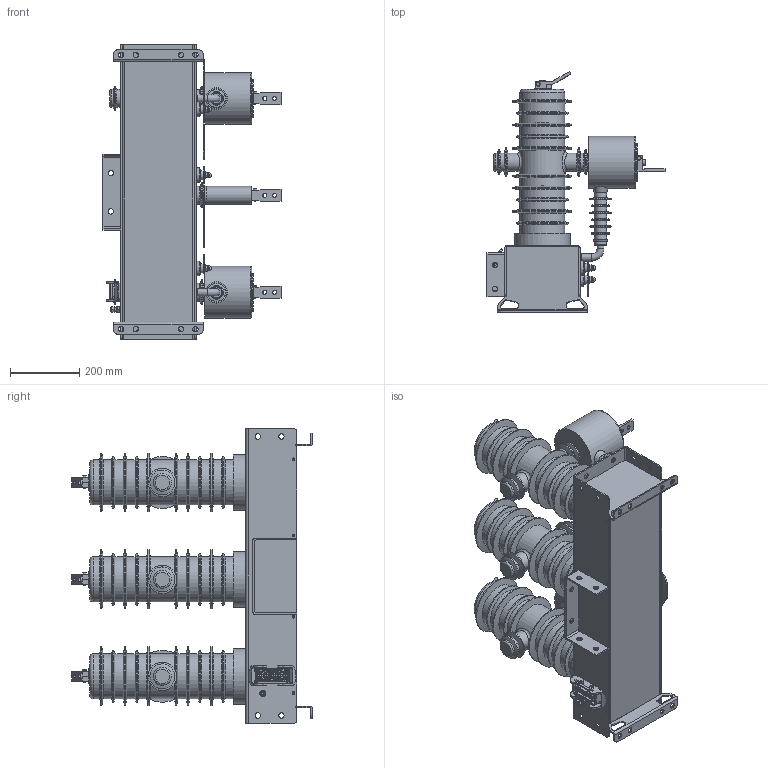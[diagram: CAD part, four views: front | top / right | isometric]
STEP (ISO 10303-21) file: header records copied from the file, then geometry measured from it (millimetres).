
FILE_DESCRIPTION(('STEP AP203'), '1');
FILE_NAME('AR12_Âàêóóìíèé âèìèêà÷', '', ('UNSPECIFIED'), ('UNSPECIFIED'), 'C3D Converter', 'C3D Toolkit', '');
FILE_SCHEMA(('CONFIG_CONTROL_DESIGN'));
Length unit declared in the file: millimetre
Assembly tree (53 placements, depth 3):
  (unnamed)
    (unnamed)
    (unnamed)  x3
    (unnamed)  x2
    (unnamed)
    (unnamed)  x3
      (unnamed)
      (unnamed)
      (unnamed)
    (unnamed)  x3
      (unnamed)
      (unnamed)
      (unnamed)
    (unnamed)  x3
      (unnamed)
      (unnamed)
      (unnamed)
    (unnamed)
    (unnamed)
    (unnamed)
    (unnamed)
    (unnamed)  x12
    (unnamed)
      (unnamed)
      (unnamed)
    (unnamed)
    (unnamed)
    (unnamed)  x3
    (unnamed)  x2
Bounding box: 514.25 x 695.27 x 850.72 mm (x, y, z)
Volume: 29844400.9 mm3; surface area: 3205815.6 mm2
Topology: 86 solids, 110 shells, 2703 faces, 7031 edges, 4603 vertices
Faces by surface type: plane 1492, cylinder 690, cone 285, bspline 122, torus 111, sphere 3
Full cylindrical faces by diameter (mm): 2.5 x9, 3 x29, 3.3 x8, 3.5 x18, 4 x12, 4.5 x4, 5 x4, 5.3 x4, 5.5 x9, 6 x18, 6.4 x6, 6.5 x4, 7 x12, 7.1 x8, 8.917 x5, 9 x18, 10 x5, 10.5 x3, 11 x15, 12 x6, 15 x3, 15.5 x26, 16 x6, 18 x3, 20 x7, 21 x2, 21.5 x3, 22 x2, 26 x3, 35 x19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
Entity records: 107965 total; most frequent: CARTESIAN_POINT 50206, DIRECTION 8470, ORIENTED_EDGE 8390, EDGE_CURVE 4213, VERTEX_POINT 3070, AXIS2_PLACEMENT_3D 2975, EDGE_LOOP 2625, LINE 2520
